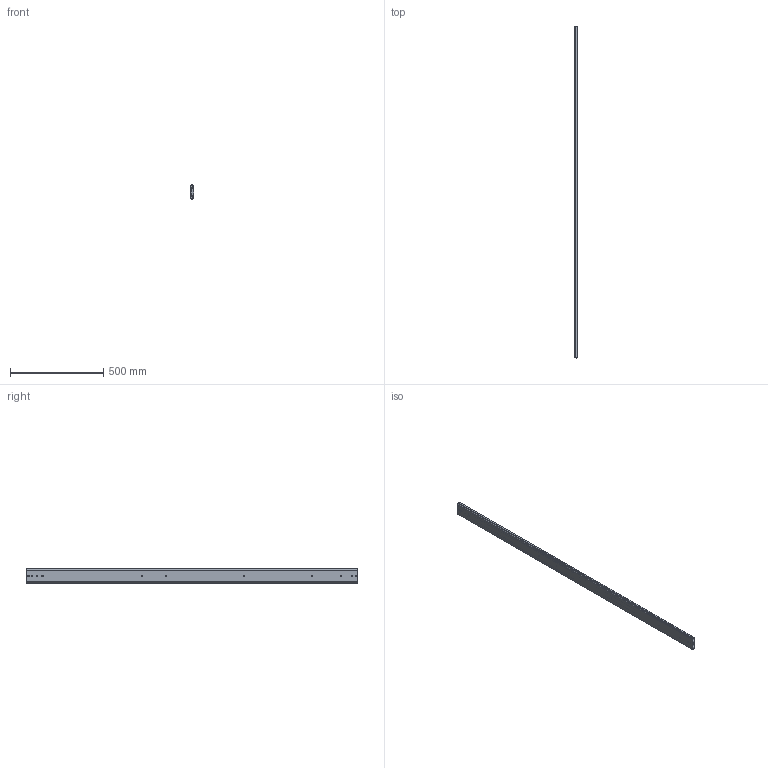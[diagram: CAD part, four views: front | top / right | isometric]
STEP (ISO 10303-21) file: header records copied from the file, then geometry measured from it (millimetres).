
FILE_DESCRIPTION(/* description */ ('Unknown'),/* implementation_level */ '2;1');
FILE_NAME(/* name */ '76J01-70 close',/* time_stamp */ '2024-07-30T15:45:28+08:00',/* author */ ('Unknown'),/* organization */ ('Unknown'),/* preprocessor_version */ 'ST-DEVELOPER v18.104',/* originating_system */ 'Solid Edge',/* authorisation */ 'Unknown');
FILE_SCHEMA (('AUTOMOTIVE_DESIGN {1 0 10303 214 3 1 1}'));
Length unit declared in the file: millimetre
Products named in the file (4): 76J01-70 close; 76J01 70 inch 內衽栵; 76J01 70 吋
Assembly tree (3 placements, depth 2):
  76J01-70 close
    76J01 70 inch 內衽栵
    76J01 70 吋
    76J01 70 吋
Bounding box: 19.3 x 1778 x 76.76 mm (x, y, z)
Volume: 1408227 mm3; surface area: 874870.7 mm2
Topology: 3 solids, 3 shells, 196 faces, 606 edges, 410 vertices
Faces by surface type: plane 104, cylinder 92
Full cylindrical faces by diameter (mm): 5.2 x16, 7.1 x2
Entity records: 7179 total; most frequent: CARTESIAN_POINT 1168, DIRECTION 1152, ORIENTED_EDGE 1140, EDGE_CURVE 570, VERTEX_POINT 392, LINE 384, VECTOR 384, AXIS2_PLACEMENT_3D 384
